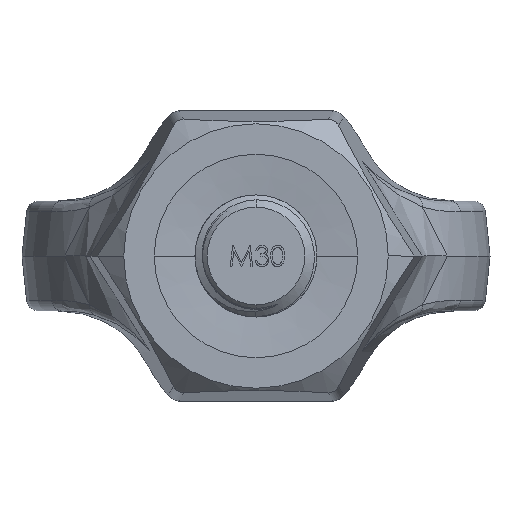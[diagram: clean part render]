
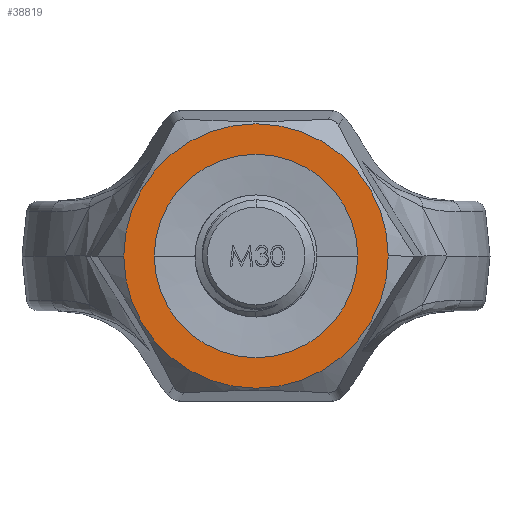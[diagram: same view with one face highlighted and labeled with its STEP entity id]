
A CAD part, front view. The second image highlights one B-rep face of the part: STEP entity #38819.
In plain terms, the highlighted planar face has unit normal (0, -1, 0).
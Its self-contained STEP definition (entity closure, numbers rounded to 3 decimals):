
#2429 = CARTESIAN_POINT ( 'NONE',  ( 0., -70., 0. ) ) ;
#2430 = DIRECTION ( 'NONE',  ( 0., 1., 0. ) ) ;
#2431 = DIRECTION ( 'NONE',  ( -1., 0., 0. ) ) ;
#2434 = CARTESIAN_POINT ( 'NONE',  ( 0., -70., 0. ) ) ;
#2435 = DIRECTION ( 'NONE',  ( 0., 1., 0. ) ) ;
#2436 = DIRECTION ( 'NONE',  ( -1., 0., 0. ) ) ;
#5633 = CARTESIAN_POINT ( 'NONE',  ( -32.5, -70., 0. ) ) ;
#5636 = CARTESIAN_POINT ( 'NONE',  ( 32.5, -70., 0. ) ) ;
#5644 = CARTESIAN_POINT ( 'NONE',  ( 25., -70., 0. ) ) ;
#5645 = CARTESIAN_POINT ( 'NONE',  ( -25., -70., 0. ) ) ;
#7863 = CARTESIAN_POINT ( 'NONE',  ( 0., -70., 0. ) ) ;
#7864 = DIRECTION ( 'NONE',  ( 0., 1., 0. ) ) ;
#7866 = DIRECTION ( 'NONE',  ( -1., 0., 0. ) ) ;
#13621 = AXIS2_PLACEMENT_3D ( 'NONE', #7863, #7864, #7866 ) ;
#13625 = AXIS2_PLACEMENT_3D ( 'NONE', #29582, #29583, #29584 ) ;
#13879 = AXIS2_PLACEMENT_3D ( 'NONE', #2429, #2430, #2431 ) ;
#13880 = AXIS2_PLACEMENT_3D ( 'NONE', #2434, #2435, #2436 ) ;
#16204 = EDGE_CURVE ( 'NONE', #39788, #39790, #17149, .T. ) ;
#16211 = EDGE_CURVE ( 'NONE', #39764, #39771, #17156, .T. ) ;
#17149 = CIRCLE ( 'NONE', #13621, 25. ) ;
#17156 = CIRCLE ( 'NONE', #13625, 32.5 ) ;
#19809 = AXIS2_PLACEMENT_3D ( 'NONE', #40199, #40201, #40203 ) ;
#20315 = EDGE_CURVE ( 'NONE', #39790, #39788, #35793, .T. ) ;
#20316 = EDGE_CURVE ( 'NONE', #39771, #39764, #35794, .T. ) ;
#21915 = ORIENTED_EDGE ( 'NONE', *, *, #16211, .F. ) ;
#21916 = ORIENTED_EDGE ( 'NONE', *, *, #20316, .F. ) ;
#21917 = ORIENTED_EDGE ( 'NONE', *, *, #16204, .T. ) ;
#21918 = ORIENTED_EDGE ( 'NONE', *, *, #20315, .T. ) ;
#29582 = CARTESIAN_POINT ( 'NONE',  ( 0., -70., 0. ) ) ;
#29583 = DIRECTION ( 'NONE',  ( 0., 1., 0. ) ) ;
#29584 = DIRECTION ( 'NONE',  ( -1., 0., 0. ) ) ;
#32308 = FACE_OUTER_BOUND ( 'NONE', #36468, .T. ) ;
#32309 = FACE_BOUND ( 'NONE', #36451, .T. ) ;
#35793 = CIRCLE ( 'NONE', #13879, 25. ) ;
#35794 = CIRCLE ( 'NONE', #13880, 32.5 ) ;
#36451 = EDGE_LOOP ( 'NONE', ( #21917, #21918 ) ) ;
#36468 = EDGE_LOOP ( 'NONE', ( #21915, #21916 ) ) ;
#38819 = ADVANCED_FACE ( 'NONE', ( #32308, #32309 ), #40185, .F. ) ;
#39764 = VERTEX_POINT ( 'NONE', #5633 ) ;
#39771 = VERTEX_POINT ( 'NONE', #5636 ) ;
#39788 = VERTEX_POINT ( 'NONE', #5644 ) ;
#39790 = VERTEX_POINT ( 'NONE', #5645 ) ;
#40185 = PLANE ( 'NONE',  #19809 ) ;
#40199 = CARTESIAN_POINT ( 'NONE',  ( -32.5, -70., 0. ) ) ;
#40201 = DIRECTION ( 'NONE',  ( 0., 1., 0. ) ) ;
#40203 = DIRECTION ( 'NONE',  ( -1., 0., 0. ) ) ;
